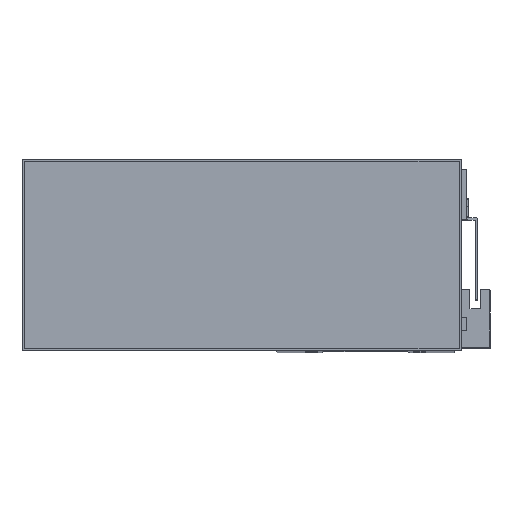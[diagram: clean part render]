
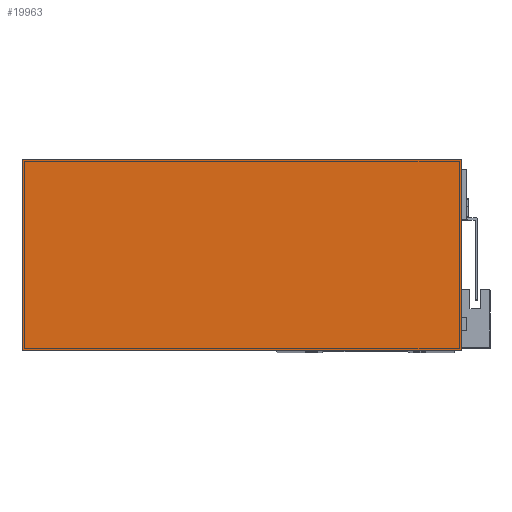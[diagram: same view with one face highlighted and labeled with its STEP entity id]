
A CAD part, top view. The second image highlights one B-rep face of the part: STEP entity #19963.
In plain terms, the highlighted planar face has unit normal (0, 0, 1).
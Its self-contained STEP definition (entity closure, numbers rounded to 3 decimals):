
#225 = CARTESIAN_POINT ( 'NONE',  ( -1., 201., 46. ) ) ;
#543 = CARTESIAN_POINT ( 'NONE',  ( -1., -1., 46. ) ) ;
#941 = VERTEX_POINT ( 'NONE', #13298 ) ;
#1068 = VERTEX_POINT ( 'NONE', #9794 ) ;
#1381 = EDGE_CURVE ( 'NONE', #941, #1068, #19259, .T. ) ;
#3434 = CARTESIAN_POINT ( 'NONE',  ( 0., 0., 46. ) ) ;
#3451 = VECTOR ( 'NONE', #18068, 1000. ) ;
#3953 = AXIS2_PLACEMENT_3D ( 'NONE', #3434, #5087, #16724 ) ;
#4042 = CARTESIAN_POINT ( 'NONE',  ( -1., 201., 46. ) ) ;
#4081 = ORIENTED_EDGE ( 'NONE', *, *, #9620, .T. ) ;
#4969 = EDGE_CURVE ( 'NONE', #15869, #941, #9058, .T. ) ;
#5034 = FACE_OUTER_BOUND ( 'NONE', #6764, .T. ) ;
#5087 = DIRECTION ( 'NONE',  ( 0., 0., 1. ) ) ;
#5386 = EDGE_CURVE ( 'NONE', #11267, #15869, #9420, .T. ) ;
#6023 = CARTESIAN_POINT ( 'NONE',  ( 87., 201., 46. ) ) ;
#6764 = EDGE_LOOP ( 'NONE', ( #19086, #7104, #4081, #19482 ) ) ;
#7104 = ORIENTED_EDGE ( 'NONE', *, *, #1381, .T. ) ;
#7373 = DIRECTION ( 'NONE',  ( 0., -1., 0. ) ) ;
#9058 = LINE ( 'NONE', #4042, #9185 ) ;
#9185 = VECTOR ( 'NONE', #7373, 1000. ) ;
#9420 = LINE ( 'NONE', #225, #9832 ) ;
#9620 = EDGE_CURVE ( 'NONE', #1068, #11267, #10943, .T. ) ;
#9621 = CARTESIAN_POINT ( 'NONE',  ( 87., 201., 46. ) ) ;
#9794 = CARTESIAN_POINT ( 'NONE',  ( 87., -1., 46. ) ) ;
#9832 = VECTOR ( 'NONE', #11680, 1000. ) ;
#10943 = LINE ( 'NONE', #9621, #3451 ) ;
#11267 = VERTEX_POINT ( 'NONE', #6023 ) ;
#11680 = DIRECTION ( 'NONE',  ( -1., 0., 0. ) ) ;
#13298 = CARTESIAN_POINT ( 'NONE',  ( -1., -1., 46. ) ) ;
#13353 = PLANE ( 'NONE',  #3953 ) ;
#15869 = VERTEX_POINT ( 'NONE', #19923 ) ;
#16724 = DIRECTION ( 'NONE',  ( 1., 0., 0. ) ) ;
#18068 = DIRECTION ( 'NONE',  ( 0., 1., 0. ) ) ;
#18330 = DIRECTION ( 'NONE',  ( 1., 0., 0. ) ) ;
#19086 = ORIENTED_EDGE ( 'NONE', *, *, #4969, .T. ) ;
#19093 = VECTOR ( 'NONE', #18330, 1000. ) ;
#19259 = LINE ( 'NONE', #543, #19093 ) ;
#19482 = ORIENTED_EDGE ( 'NONE', *, *, #5386, .T. ) ;
#19923 = CARTESIAN_POINT ( 'NONE',  ( -1., 201., 46. ) ) ;
#19963 = ADVANCED_FACE ( 'NONE', ( #5034 ), #13353, .T. ) ;
